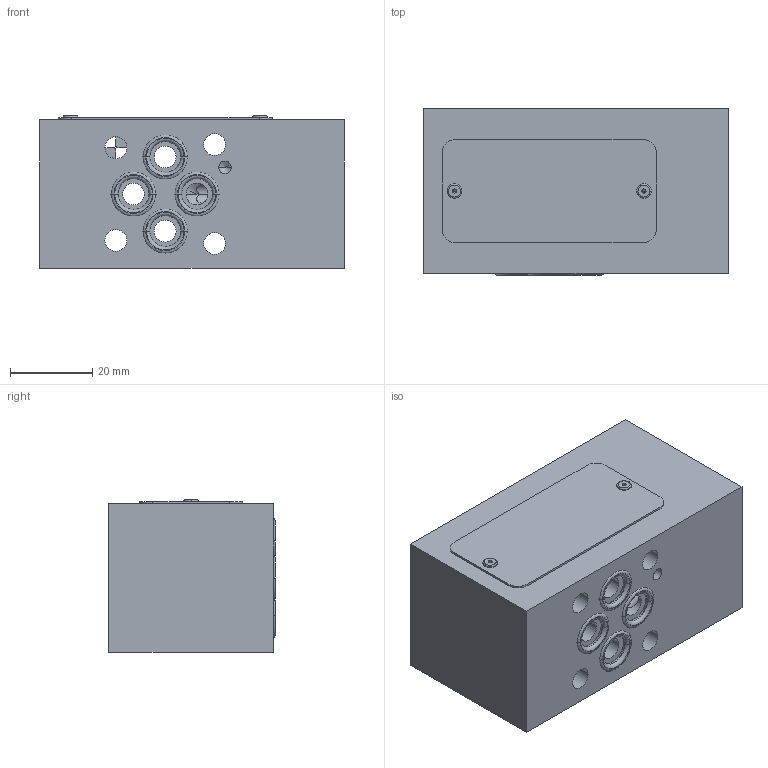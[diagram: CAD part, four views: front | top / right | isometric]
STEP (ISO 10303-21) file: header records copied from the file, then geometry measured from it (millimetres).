
FILE_DESCRIPTION((''),'2;1');
FILE_NAME('1000155327_ASM','2023-10-12T',('l.soukupova'),(''),'PRO/ENGINEER BY PARAMETRIC TECHNOLOGY CORPORATION, 2015440','PRO/ENGINEER BY PARAMETRIC TECHNOLOGY CORPORATION, 2015440','');
FILE_SCHEMA(('AUTOMOTIVE_DESIGN { 1 0 10303 214 1 1 1 1 }'));
Length unit declared in the file: millimetre
Products named in the file (5): 31113101; RD_LABEL_25X52_159703; AF_1932_16485; ORIA00750_292673; 1000155327_ASM
Assembly tree (8 placements, depth 2):
  1000155327_ASM
    31113101
    RD_LABEL_25X52_159703
    AF_1932_16485  x2
    ORIA00750_292673  x4
Bounding box: 74 x 40.4 x 37 mm (x, y, z)
Volume: 92747.9 mm3; surface area: 25158.7 mm2
Topology: 8 solids, 11 shells, 172 faces, 518 edges, 430 vertices
Faces by surface type: cylinder 82, torus 36, plane 34, cone 20
Entity records: 6989 total; most frequent: CARTESIAN_POINT 1068, DIRECTION 878, ORIENTED_EDGE 540, PRESENTATION_STYLE_ASSIGNMENT 496, STYLED_ITEM 445, CURVE_STYLE 439, AXIS2_PLACEMENT_3D 336, EDGE_CURVE 276
